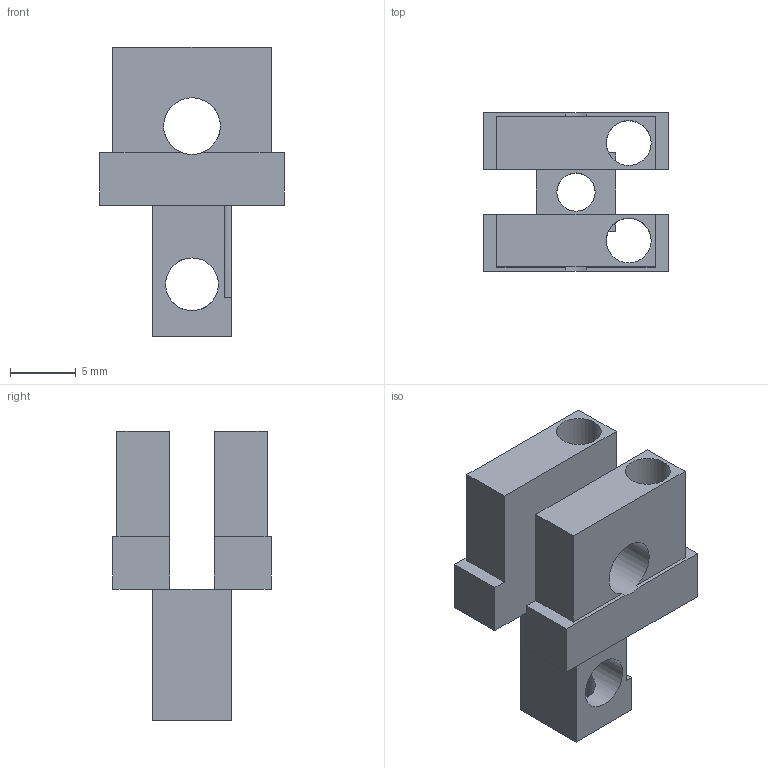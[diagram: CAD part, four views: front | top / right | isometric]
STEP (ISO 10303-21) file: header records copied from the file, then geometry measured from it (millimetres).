
FILE_DESCRIPTION(('Open CASCADE Model'),'2;1');
FILE_NAME('SCZ-SLB','2026-11-15T22:39:10',('Author'),('Open CASCADE'), 'Open CASCADE STEP processor 8.0','build123d','Unknown');
FILE_SCHEMA(('AUTOMOTIVE_DESIGN { 1 0 10303 214 1 1 1 1 }'));
Length unit declared in the file: millimetre
Products named in the file (1): SCZ-SLB
Bounding box: 14 x 12 x 22 mm (x, y, z)
Volume: 1155.5 mm3; surface area: 1675.3 mm2
Topology: 1 solids, 1 shells, 37 faces, 113 edges, 74 vertices
Faces by surface type: plane 30, cylinder 7
Full cylindrical faces by diameter (mm): 2.9 x2, 3.4 x2, 4 x1, 4.3 x2
Entity records: 3338 total; most frequent: CARTESIAN_POINT 1165, DIRECTION 371, LINE 245, VECTOR 245, ORIENTED_EDGE 226, PCURVE 226, DEFINITIONAL_REPRESENTATION 226, EDGE_CURVE 113
